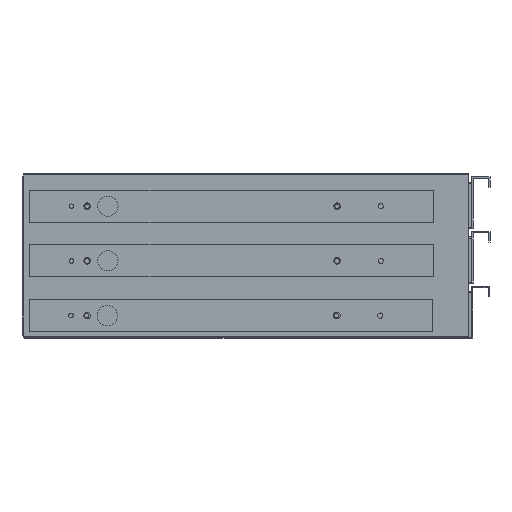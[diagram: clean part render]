
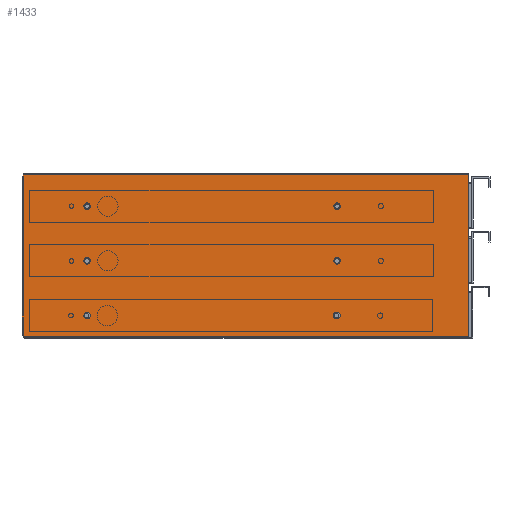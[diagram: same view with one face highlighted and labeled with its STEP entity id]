
A CAD part, left-side view. The second image highlights one B-rep face of the part: STEP entity #1433.
In plain terms, the highlighted planar face has unit normal (-1, 0, 0).
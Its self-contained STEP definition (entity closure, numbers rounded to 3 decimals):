
#1433 = ADVANCED_FACE( '', ( #2800, #2801, #2802, #2803, #2804, #2805, #2806 ), #2807, .F. );
#2800 = FACE_BOUND( '', #4063, .T. );
#2801 = FACE_BOUND( '', #4064, .T. );
#2802 = FACE_BOUND( '', #4065, .T. );
#2803 = FACE_BOUND( '', #4066, .T. );
#2804 = FACE_BOUND( '', #4067, .T. );
#2805 = FACE_BOUND( '', #4068, .T. );
#2806 = FACE_OUTER_BOUND( '', #4069, .T. );
#2807 = PLANE( '', #4070 );
#4063 = EDGE_LOOP( '', ( #7264 ) );
#4064 = EDGE_LOOP( '', ( #7265 ) );
#4065 = EDGE_LOOP( '', ( #7266 ) );
#4066 = EDGE_LOOP( '', ( #7267, #7268 ) );
#4067 = EDGE_LOOP( '', ( #7269 ) );
#4068 = EDGE_LOOP( '', ( #7270 ) );
#4069 = EDGE_LOOP( '', ( #7271, #7272, #7273, #7274, #7275, #7276, #7277, #7278 ) );
#4070 = AXIS2_PLACEMENT_3D( '', #7279, #7280, #7281 );
#7264 = ORIENTED_EDGE( '', *, *, #8468, .T. );
#7265 = ORIENTED_EDGE( '', *, *, #8298, .T. );
#7266 = ORIENTED_EDGE( '', *, *, #8419, .T. );
#7267 = ORIENTED_EDGE( '', *, *, #8438, .T. );
#7268 = ORIENTED_EDGE( '', *, *, #8054, .T. );
#7269 = ORIENTED_EDGE( '', *, *, #7407, .T. );
#7270 = ORIENTED_EDGE( '', *, *, #8432, .T. );
#7271 = ORIENTED_EDGE( '', *, *, #7536, .T. );
#7272 = ORIENTED_EDGE( '', *, *, #8380, .F. );
#7273 = ORIENTED_EDGE( '', *, *, #7736, .F. );
#7274 = ORIENTED_EDGE( '', *, *, #8390, .F. );
#7275 = ORIENTED_EDGE( '', *, *, #8048, .F. );
#7276 = ORIENTED_EDGE( '', *, *, #7941, .T. );
#7277 = ORIENTED_EDGE( '', *, *, #7969, .F. );
#7278 = ORIENTED_EDGE( '', *, *, #8516, .T. );
#7279 = CARTESIAN_POINT( '', ( 9.5, 332., -126. ) );
#7280 = DIRECTION( '', ( 1., 0., 0. ) );
#7281 = DIRECTION( '', ( 0., 0., -1. ) );
#7407 = EDGE_CURVE( '', #8746, #8746, #8747, .T. );
#7536 = EDGE_CURVE( '', #8979, #8977, #8980, .T. );
#7736 = EDGE_CURVE( '', #9314, #9317, #9318, .T. );
#7941 = EDGE_CURVE( '', #9643, #9641, #9644, .T. );
#7969 = EDGE_CURVE( '', #9685, #9641, #9687, .T. );
#8048 = EDGE_CURVE( '', #9643, #9794, #9795, .T. );
#8054 = EDGE_CURVE( '', #9800, #9802, #9804, .T. );
#8298 = EDGE_CURVE( '', #10153, #10153, #10154, .T. );
#8380 = EDGE_CURVE( '', #9317, #8977, #10252, .T. );
#8390 = EDGE_CURVE( '', #9794, #9314, #10262, .T. );
#8419 = EDGE_CURVE( '', #10297, #10297, #10298, .T. );
#8432 = EDGE_CURVE( '', #10311, #10311, #10312, .T. );
#8438 = EDGE_CURVE( '', #9802, #9800, #10318, .T. );
#8468 = EDGE_CURVE( '', #10352, #10352, #10353, .T. );
#8516 = EDGE_CURVE( '', #9685, #8979, #10403, .T. );
#8746 = VERTEX_POINT( '', #10699 );
#8747 = CIRCLE( '', #10700, 2.5 );
#8977 = VERTEX_POINT( '', #11011 );
#8979 = VERTEX_POINT( '', #11014 );
#8980 = LINE( '', #11015, #11016 );
#9314 = VERTEX_POINT( '', #11479 );
#9317 = VERTEX_POINT( '', #11483 );
#9318 = LINE( '', #11484, #11485 );
#9641 = VERTEX_POINT( '', #11953 );
#9643 = VERTEX_POINT( '', #11956 );
#9644 = LINE( '', #11957, #11958 );
#9685 = VERTEX_POINT( '', #12013 );
#9687 = LINE( '', #12016, #12017 );
#9794 = VERTEX_POINT( '', #12163 );
#9795 = LINE( '', #12164, #12165 );
#9800 = VERTEX_POINT( '', #12172 );
#9802 = VERTEX_POINT( '', #12175 );
#9804 = CIRCLE( '', #12178, 2.5 );
#10153 = VERTEX_POINT( '', #12664 );
#10154 = CIRCLE( '', #12665, 2.5 );
#10252 = LINE( '', #12802, #12803 );
#10262 = LINE( '', #12816, #12817 );
#10297 = VERTEX_POINT( '', #12864 );
#10298 = CIRCLE( '', #12865, 2.5 );
#10311 = VERTEX_POINT( '', #12883 );
#10312 = CIRCLE( '', #12884, 2.5 );
#10318 = CIRCLE( '', #12892, 2.5 );
#10352 = VERTEX_POINT( '', #12936 );
#10353 = CIRCLE( '', #12937, 2.5 );
#10403 = LINE( '', #12997, #12998 );
#10699 = CARTESIAN_POINT( '', ( 9.5, 91., -69.5 ) );
#10700 = AXIS2_PLACEMENT_3D( '', #13168, #13169, #13170 );
#11011 = CARTESIAN_POINT( '', ( 9.5, -10., -1. ) );
#11014 = CARTESIAN_POINT( '', ( 9.5, -10., -126. ) );
#11015 = CARTESIAN_POINT( '', ( 9.5, -10., -126. ) );
#11016 = VECTOR( '', #13316, 1000. );
#11479 = CARTESIAN_POINT( '', ( 9.5, 332., -2. ) );
#11483 = CARTESIAN_POINT( '', ( 9.5, 332., -1. ) );
#11484 = CARTESIAN_POINT( '', ( 9.5, 332., -126. ) );
#11485 = VECTOR( '', #13552, 1000. );
#11953 = CARTESIAN_POINT( '', ( 9.5, 332., -124. ) );
#11956 = CARTESIAN_POINT( '', ( 9.5, 333., -124. ) );
#11957 = CARTESIAN_POINT( '', ( 9.5, 333., -124. ) );
#11958 = VECTOR( '', #13744, 1000. );
#12013 = CARTESIAN_POINT( '', ( 9.5, 332., -126. ) );
#12016 = CARTESIAN_POINT( '', ( 9.5, 332., -126. ) );
#12017 = VECTOR( '', #13781, 1000. );
#12163 = CARTESIAN_POINT( '', ( 9.5, 333., -2. ) );
#12164 = CARTESIAN_POINT( '', ( 9.5, 333., -124. ) );
#12165 = VECTOR( '', #13860, 1000. );
#12172 = CARTESIAN_POINT( '', ( 9.5, 91.22, -106.51 ) );
#12175 = CARTESIAN_POINT( '', ( 9.5, 91.22, -111.49 ) );
#12178 = AXIS2_PLACEMENT_3D( '', #13865, #13866, #13867 );
#12664 = CARTESIAN_POINT( '', ( 9.5, 283., -69.5 ) );
#12665 = AXIS2_PLACEMENT_3D( '', #14128, #14129, #14130 );
#12802 = CARTESIAN_POINT( '', ( 9.5, 332., -1. ) );
#12803 = VECTOR( '', #14212, 1000. );
#12816 = CARTESIAN_POINT( '', ( 9.5, 333., -2. ) );
#12817 = VECTOR( '', #14216, 1000. );
#12864 = CARTESIAN_POINT( '', ( 9.5, 283., -27.5 ) );
#12865 = AXIS2_PLACEMENT_3D( '', #14238, #14239, #14240 );
#12883 = CARTESIAN_POINT( '', ( 9.5, 91., -27.5 ) );
#12884 = AXIS2_PLACEMENT_3D( '', #14246, #14247, #14248 );
#12892 = AXIS2_PLACEMENT_3D( '', #14251, #14252, #14253 );
#12936 = CARTESIAN_POINT( '', ( 9.5, 283., -111.5 ) );
#12937 = AXIS2_PLACEMENT_3D( '', #14273, #14274, #14275 );
#12997 = CARTESIAN_POINT( '', ( 9.5, 332., -126. ) );
#12998 = VECTOR( '', #14295, 1000. );
#13168 = CARTESIAN_POINT( '', ( 9.5, 91., -67. ) );
#13169 = DIRECTION( '', ( 1., 0., 0. ) );
#13170 = DIRECTION( '', ( 0., 0., -1. ) );
#13316 = DIRECTION( '', ( 0., 0., 1. ) );
#13552 = DIRECTION( '', ( 0., 0., 1. ) );
#13744 = DIRECTION( '', ( 0., -1., 0. ) );
#13781 = DIRECTION( '', ( 0., 0., 1. ) );
#13860 = DIRECTION( '', ( 0., 0., 1. ) );
#13865 = CARTESIAN_POINT( '', ( 9.5, 91., -109. ) );
#13866 = DIRECTION( '', ( 1., 0., 0. ) );
#13867 = DIRECTION( '', ( 0., 0., -1. ) );
#14128 = CARTESIAN_POINT( '', ( 9.5, 283., -67. ) );
#14129 = DIRECTION( '', ( 1., 0., 0. ) );
#14130 = DIRECTION( '', ( 0., 0., -1. ) );
#14212 = DIRECTION( '', ( 0., -1., 0. ) );
#14216 = DIRECTION( '', ( 0., -1., 0. ) );
#14238 = CARTESIAN_POINT( '', ( 9.5, 283., -25. ) );
#14239 = DIRECTION( '', ( 1., 0., 0. ) );
#14240 = DIRECTION( '', ( 0., 0., -1. ) );
#14246 = CARTESIAN_POINT( '', ( 9.5, 91., -25. ) );
#14247 = DIRECTION( '', ( 1., 0., 0. ) );
#14248 = DIRECTION( '', ( 0., 0., -1. ) );
#14251 = CARTESIAN_POINT( '', ( 9.5, 91.44, -109. ) );
#14252 = DIRECTION( '', ( 1., 0., 0. ) );
#14253 = DIRECTION( '', ( 0., 0., -1. ) );
#14273 = CARTESIAN_POINT( '', ( 9.5, 283., -109. ) );
#14274 = DIRECTION( '', ( 1., 0., 0. ) );
#14275 = DIRECTION( '', ( 0., 0., -1. ) );
#14295 = DIRECTION( '', ( 0., -1., 0. ) );
